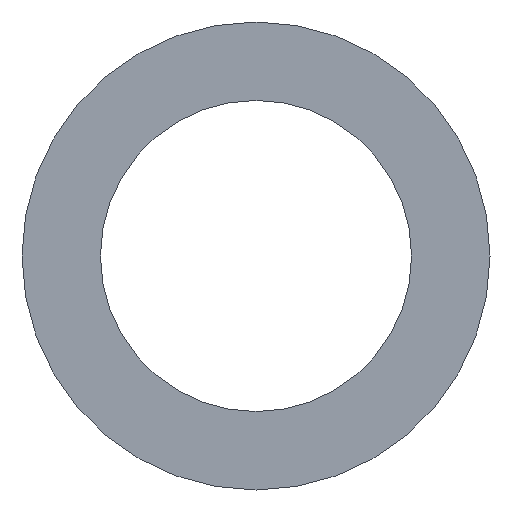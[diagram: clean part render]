
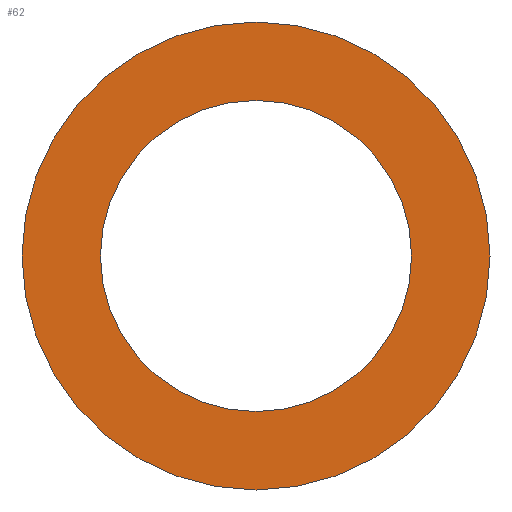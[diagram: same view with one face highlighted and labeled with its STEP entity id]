
A CAD part, front view. The second image highlights one B-rep face of the part: STEP entity #62.
In plain terms, the highlighted planar face has unit normal (0, -1, 0).
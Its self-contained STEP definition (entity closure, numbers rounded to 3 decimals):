
#20=PLANE('',#83);
#26=ORIENTED_EDGE('',*,*,#30,.T.);
#27=ORIENTED_EDGE('',*,*,#32,.F.);
#30=EDGE_CURVE('',#34,#34,#38,.T.);
#32=EDGE_CURVE('',#36,#36,#40,.T.);
#34=VERTEX_POINT('',#106);
#36=VERTEX_POINT('',#111);
#38=CIRCLE('',#78,164.5);
#40=CIRCLE('',#81,247.5);
#46=EDGE_LOOP('',(#26));
#47=EDGE_LOOP('',(#27));
#54=FACE_BOUND('',#46,.T.);
#55=FACE_BOUND('',#47,.T.);
#62=ADVANCED_FACE('',(#54,#55),#20,.F.);
#78=AXIS2_PLACEMENT_3D('',#105,#89,#90);
#81=AXIS2_PLACEMENT_3D('',#110,#95,#96);
#83=AXIS2_PLACEMENT_3D('',#114,#99,#100);
#89=DIRECTION('',(0.,1.,0.));
#90=DIRECTION('',(1.,0.,0.));
#95=DIRECTION('',(0.,1.,0.));
#96=DIRECTION('',(1.,0.,0.));
#99=DIRECTION('',(0.,1.,0.));
#100=DIRECTION('',(0.,0.,1.));
#105=CARTESIAN_POINT('',(0.,-1.5,0.));
#106=CARTESIAN_POINT('',(164.5,-1.5,0.));
#110=CARTESIAN_POINT('',(0.,-1.5,0.));
#111=CARTESIAN_POINT('',(247.5,-1.5,0.));
#114=CARTESIAN_POINT('',(0.,-1.5,0.));
